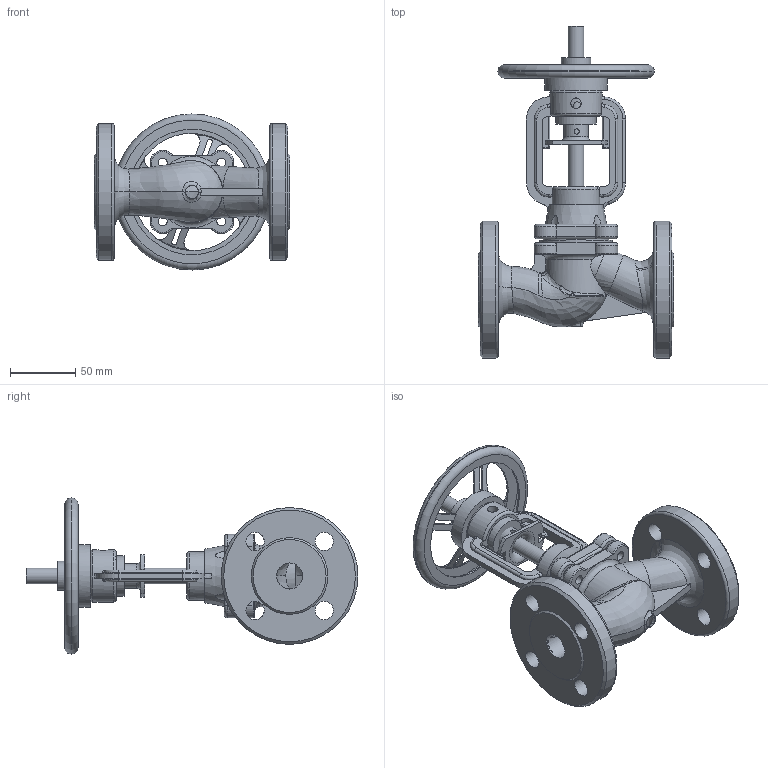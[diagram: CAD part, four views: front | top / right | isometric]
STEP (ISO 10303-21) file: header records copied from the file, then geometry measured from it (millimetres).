
FILE_DESCRIPTION(/* description */ ('STEP AP203'),/* implementation_level */ '2;1');
FILE_NAME(/* name */ '',/* time_stamp */ '2025-02-21T11:42:55+07:00',/* author */ ('Eva'),/* organization */ (''),/* preprocessor_version */ 'ST-DEVELOPER v20',/* originating_system */ 'Autodesk Inventor 2025',/* authorisation */ '');
FILE_SCHEMA (('AUTOMOTIVE_DESIGN { 1 0 10303 214 3 1 1 }'));
Products named in the file (7): 波纹管-20; 波纹管截止阀盖15-20; 波纹管15-20阀杆螺母; 波纹管15-20限位板; 波纹管阀杆（15-20）; 15-20手轮; 20
Assembly tree (6 placements, depth 2):
  波纹管-20
    波纹管截止阀盖15-20
    波纹管15-20阀杆螺母
    波纹管15-20限位板
    波纹管阀杆（15-20）
    15-20手轮
    20
Bounding box: 150 x 254.75 x 119.81 mm (x, y, z)
Volume: 499353.1 mm3; surface area: 155595.1 mm2
Topology: 6 solids, 6 shells, 422 faces, 1123 edges, 726 vertices
Faces by surface type: cylinder 157, plane 121, bspline 67, torus 60, cone 16, sphere 1
Full cylindrical faces by diameter (mm): 4 x3, 6 x1, 7 x4, 8 x1, 10 x6, 12 x3, 13 x2, 14 x8, 16.5 x1, 19 x1, 20 x3, 22.5 x1, 24 x2, 26 x2, 31 x1, 31.5 x1, 33 x1, 40 x2, 48 x1, 50 x1, 50.5 x1, 56 x1, 96.399 x1, 105 x2, 117.417 x1, 119.817 x1
Entity records: 53469 total; most frequent: CARTESIAN_POINT 43115, ORIENTED_EDGE 2244, DIRECTION 1951, EDGE_CURVE 1122, AXIS2_PLACEMENT_3D 800, VERTEX_POINT 726, EDGE_LOOP 510, CIRCLE 424
